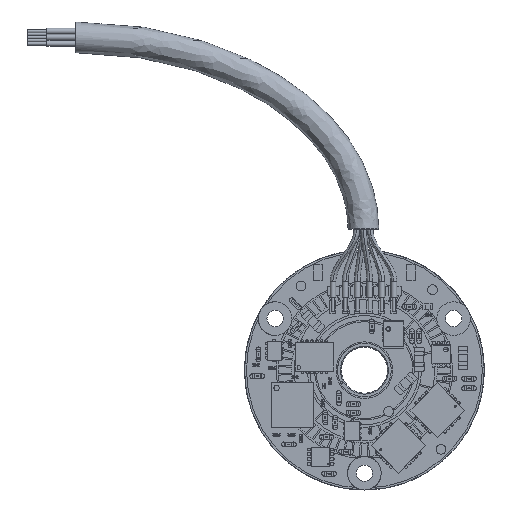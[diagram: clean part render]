
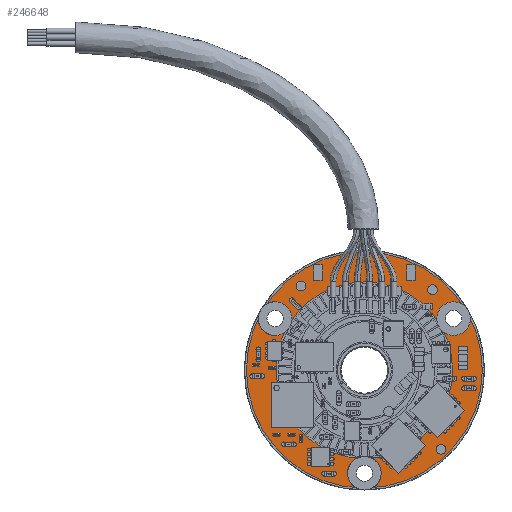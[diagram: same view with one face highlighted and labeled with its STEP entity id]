
A CAD part, front view. The second image highlights one B-rep face of the part: STEP entity #246648.
In plain terms, the highlighted planar face has unit normal (0, 1, 0).
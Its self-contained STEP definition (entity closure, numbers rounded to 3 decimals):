
#3813 = EDGE_CURVE ( 'NONE', #322105, #253848, #22427, .T. ) ;
#10738 = AXIS2_PLACEMENT_3D ( 'NONE', #181256, #127432, #335788 ) ;
#10977 = DIRECTION ( 'NONE',  ( 0., 0., 1. ) ) ;
#15263 = DIRECTION ( 'NONE',  ( 0., 0., 1. ) ) ;
#18673 = FACE_BOUND ( 'NONE', #235903, .T. ) ;
#22427 = CIRCLE ( 'NONE', #88108, 0.85 ) ;
#23072 = VERTEX_POINT ( 'NONE', #251658 ) ;
#26405 = DIRECTION ( 'NONE',  ( 0., 0., 1. ) ) ;
#31438 = DIRECTION ( 'NONE',  ( 0., 0., 1. ) ) ;
#31834 = AXIS2_PLACEMENT_3D ( 'NONE', #291850, #111292, #10977 ) ;
#32552 = AXIS2_PLACEMENT_3D ( 'NONE', #93315, #169648, #221624 ) ;
#33090 = DIRECTION ( 'NONE',  ( 0., 1., 0. ) ) ;
#42543 = ORIENTED_EDGE ( 'NONE', *, *, #221763, .F. ) ;
#44610 = DIRECTION ( 'NONE',  ( 0., 1., 0. ) ) ;
#49275 = VERTEX_POINT ( 'NONE', #158670 ) ;
#51925 = ORIENTED_EDGE ( 'NONE', *, *, #103189, .T. ) ;
#52310 = EDGE_LOOP ( 'NONE', ( #195784, #243678 ) ) ;
#54016 = ORIENTED_EDGE ( 'NONE', *, *, #292520, .F. ) ;
#55832 = DIRECTION ( 'NONE',  ( 0., 1., 0. ) ) ;
#56422 = EDGE_CURVE ( 'NONE', #322639, #237222, #146017, .T. ) ;
#57479 = AXIS2_PLACEMENT_3D ( 'NONE', #143594, #147030, #254470 ) ;
#63819 = FACE_BOUND ( 'NONE', #201341, .T. ) ;
#64899 = DIRECTION ( 'NONE',  ( 0., 1., 0. ) ) ;
#68266 = DIRECTION ( 'NONE',  ( 0., 0., 1. ) ) ;
#69926 = CARTESIAN_POINT ( 'NONE',  ( 0., 2.17, -9.2 ) ) ;
#70326 = CARTESIAN_POINT ( 'NONE',  ( 0., 2.17, -11.6 ) ) ;
#70574 = CARTESIAN_POINT ( 'NONE',  ( 0., 2.17, 0. ) ) ;
#76709 = CARTESIAN_POINT ( 'NONE',  ( 9.31, 2.17, 4.525 ) ) ;
#76914 = CIRCLE ( 'NONE', #82384, 12.3 ) ;
#82384 = AXIS2_PLACEMENT_3D ( 'NONE', #312568, #55832, #26405 ) ;
#83617 = EDGE_CURVE ( 'NONE', #129298, #149460, #84424, .T. ) ;
#84424 = CIRCLE ( 'NONE', #322664, 9.2 ) ;
#88108 = AXIS2_PLACEMENT_3D ( 'NONE', #124851, #312284, #95526 ) ;
#90929 = ORIENTED_EDGE ( 'NONE', *, *, #143318, .F. ) ;
#93315 = CARTESIAN_POINT ( 'NONE',  ( 0., 2.17, 0. ) ) ;
#95526 = DIRECTION ( 'NONE',  ( 0., 0., 1. ) ) ;
#103189 = EDGE_CURVE ( 'NONE', #49275, #217108, #309585, .T. ) ;
#110251 = CARTESIAN_POINT ( 'NONE',  ( 0., 2.17, -12.3 ) ) ;
#111292 = DIRECTION ( 'NONE',  ( 0., 1., 0. ) ) ;
#116018 = CIRCLE ( 'NONE', #10738, 0.85 ) ;
#122930 = CARTESIAN_POINT ( 'NONE',  ( 0., 2.17, 0. ) ) ;
#124851 = CARTESIAN_POINT ( 'NONE',  ( 0., 2.17, -10.75 ) ) ;
#127432 = DIRECTION ( 'NONE',  ( 0., 1., 0. ) ) ;
#129298 = VERTEX_POINT ( 'NONE', #319492 ) ;
#140185 = CIRCLE ( 'NONE', #57479, 0.85 ) ;
#143318 = EDGE_CURVE ( 'NONE', #253848, #322105, #269779, .T. ) ;
#143594 = CARTESIAN_POINT ( 'NONE',  ( 9.31, 2.17, 5.375 ) ) ;
#145137 = FACE_BOUND ( 'NONE', #52310, .T. ) ;
#145596 = EDGE_CURVE ( 'NONE', #23072, #296026, #116018, .T. ) ;
#146017 = CIRCLE ( 'NONE', #301400, 0.85 ) ;
#147030 = DIRECTION ( 'NONE',  ( 0., 1., 0. ) ) ;
#149460 = VERTEX_POINT ( 'NONE', #69926 ) ;
#156154 = AXIS2_PLACEMENT_3D ( 'NONE', #70574, #44610, #176298 ) ;
#158670 = CARTESIAN_POINT ( 'NONE',  ( 0., 2.17, 12.3 ) ) ;
#169648 = DIRECTION ( 'NONE',  ( 0., 1., 0. ) ) ;
#173827 = EDGE_CURVE ( 'NONE', #237222, #322639, #140185, .T. ) ;
#176298 = DIRECTION ( 'NONE',  ( 0., 0., 1. ) ) ;
#181256 = CARTESIAN_POINT ( 'NONE',  ( -9.31, 2.17, 5.375 ) ) ;
#181862 = CIRCLE ( 'NONE', #32552, 9.2 ) ;
#195614 = FACE_OUTER_BOUND ( 'NONE', #213899, .T. ) ;
#195784 = ORIENTED_EDGE ( 'NONE', *, *, #56422, .F. ) ;
#197277 = DIRECTION ( 'NONE',  ( 0., 1., 0. ) ) ;
#201341 = EDGE_LOOP ( 'NONE', ( #90929, #218538 ) ) ;
#213899 = EDGE_LOOP ( 'NONE', ( #315506, #51925 ) ) ;
#217108 = VERTEX_POINT ( 'NONE', #110251 ) ;
#218538 = ORIENTED_EDGE ( 'NONE', *, *, #3813, .F. ) ;
#221624 = DIRECTION ( 'NONE',  ( 0., 0., 1. ) ) ;
#221763 = EDGE_CURVE ( 'NONE', #296026, #23072, #231328, .T. ) ;
#223163 = CARTESIAN_POINT ( 'NONE',  ( -9.31, 2.17, 6.225 ) ) ;
#228684 = DIRECTION ( 'NONE',  ( 0., 1., 0. ) ) ;
#231328 = CIRCLE ( 'NONE', #292459, 0.85 ) ;
#233769 = EDGE_LOOP ( 'NONE', ( #42543, #269208 ) ) ;
#235903 = EDGE_LOOP ( 'NONE', ( #54016, #286717 ) ) ;
#237222 = VERTEX_POINT ( 'NONE', #76709 ) ;
#237874 = CARTESIAN_POINT ( 'NONE',  ( 0., 2.17, -9.9 ) ) ;
#243678 = ORIENTED_EDGE ( 'NONE', *, *, #173827, .F. ) ;
#246648 = ADVANCED_FACE ( 'NONE', ( #63819, #145137, #250883, #195614, #18673 ), #308201, .T. ) ;
#250263 = CARTESIAN_POINT ( 'NONE',  ( -9.31, 2.17, 5.375 ) ) ;
#250883 = FACE_BOUND ( 'NONE', #233769, .T. ) ;
#251658 = CARTESIAN_POINT ( 'NONE',  ( -9.31, 2.17, 4.525 ) ) ;
#253848 = VERTEX_POINT ( 'NONE', #237874 ) ;
#254470 = DIRECTION ( 'NONE',  ( 0., 0., 1. ) ) ;
#269208 = ORIENTED_EDGE ( 'NONE', *, *, #145596, .F. ) ;
#269779 = CIRCLE ( 'NONE', #31834, 0.85 ) ;
#284229 = DIRECTION ( 'NONE',  ( 0., 0., 1. ) ) ;
#286717 = ORIENTED_EDGE ( 'NONE', *, *, #83617, .F. ) ;
#291850 = CARTESIAN_POINT ( 'NONE',  ( 0., 2.17, -10.75 ) ) ;
#292459 = AXIS2_PLACEMENT_3D ( 'NONE', #250263, #64899, #68266 ) ;
#292520 = EDGE_CURVE ( 'NONE', #149460, #129298, #181862, .T. ) ;
#296026 = VERTEX_POINT ( 'NONE', #223163 ) ;
#301400 = AXIS2_PLACEMENT_3D ( 'NONE', #322717, #33090, #31438 ) ;
#308201 = PLANE ( 'NONE',  #156154 ) ;
#309585 = CIRCLE ( 'NONE', #326253, 12.3 ) ;
#309867 = CARTESIAN_POINT ( 'NONE',  ( 0., 2.17, 0. ) ) ;
#312279 = CARTESIAN_POINT ( 'NONE',  ( 9.31, 2.17, 6.225 ) ) ;
#312284 = DIRECTION ( 'NONE',  ( 0., 1., 0. ) ) ;
#312568 = CARTESIAN_POINT ( 'NONE',  ( 0., 2.17, 0. ) ) ;
#315506 = ORIENTED_EDGE ( 'NONE', *, *, #339732, .T. ) ;
#319492 = CARTESIAN_POINT ( 'NONE',  ( 0., 2.17, 9.2 ) ) ;
#322105 = VERTEX_POINT ( 'NONE', #70326 ) ;
#322639 = VERTEX_POINT ( 'NONE', #312279 ) ;
#322664 = AXIS2_PLACEMENT_3D ( 'NONE', #309867, #197277, #15263 ) ;
#322717 = CARTESIAN_POINT ( 'NONE',  ( 9.31, 2.17, 5.375 ) ) ;
#326253 = AXIS2_PLACEMENT_3D ( 'NONE', #122930, #228684, #284229 ) ;
#335788 = DIRECTION ( 'NONE',  ( 0., 0., 1. ) ) ;
#339732 = EDGE_CURVE ( 'NONE', #217108, #49275, #76914, .T. ) ;
